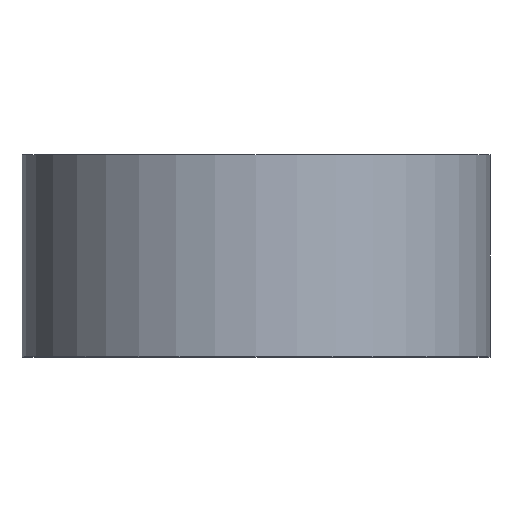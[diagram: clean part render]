
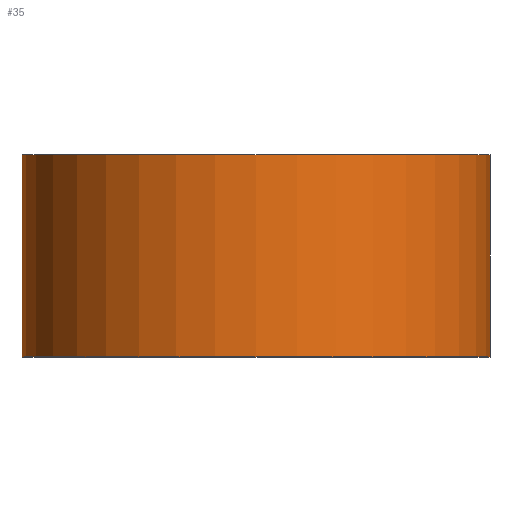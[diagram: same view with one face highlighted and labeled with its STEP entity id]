
A CAD part, top view. The second image highlights one B-rep face of the part: STEP entity #35.
In plain terms, the highlighted cylindrical face has radius 3.3 mm (diameter 6.6 mm), a full revolution.
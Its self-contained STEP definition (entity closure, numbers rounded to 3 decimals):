
#35 = ADVANCED_FACE('',(#36),#49,.T.);
#36 = FACE_BOUND('',#37,.T.);
#37 = EDGE_LOOP('',(#38,#72,#95,#122));
#38 = ORIENTED_EDGE('',*,*,#39,.F.);
#39 = EDGE_CURVE('',#40,#40,#42,.T.);
#40 = VERTEX_POINT('',#41);
#41 = CARTESIAN_POINT('',(3.3,-1.425,0.));
#42 = SURFACE_CURVE('',#43,(#48,#60),.PCURVE_S1.);
#43 = CIRCLE('',#44,3.3);
#44 = AXIS2_PLACEMENT_3D('',#45,#46,#47);
#45 = CARTESIAN_POINT('',(0.,-1.425,0.));
#46 = DIRECTION('',(0.,-1.,0.));
#47 = DIRECTION('',(1.,0.,0.));
#48 = PCURVE('',#49,#54);
#49 = CYLINDRICAL_SURFACE('',#50,3.3);
#50 = AXIS2_PLACEMENT_3D('',#51,#52,#53);
#51 = CARTESIAN_POINT('',(0.,1.425,0.));
#52 = DIRECTION('',(0.,-1.,0.));
#53 = DIRECTION('',(1.,0.,0.));
#54 = DEFINITIONAL_REPRESENTATION('',(#55),#59);
#55 = LINE('',#56,#57);
#56 = CARTESIAN_POINT('',(0.,2.85));
#57 = VECTOR('',#58,1.);
#58 = DIRECTION('',(1.,0.));
#59 = ( GEOMETRIC_REPRESENTATION_CONTEXT(2) 
PARAMETRIC_REPRESENTATION_CONTEXT() REPRESENTATION_CONTEXT('2D SPACE',''
  ) );
#60 = PCURVE('',#61,#66);
#61 = PLANE('',#62);
#62 = AXIS2_PLACEMENT_3D('',#63,#64,#65);
#63 = CARTESIAN_POINT('',(0.,-1.425,0.));
#64 = DIRECTION('',(0.,-1.,0.));
#65 = DIRECTION('',(1.,0.,0.));
#66 = DEFINITIONAL_REPRESENTATION('',(#67),#71);
#67 = CIRCLE('',#68,3.3);
#68 = AXIS2_PLACEMENT_2D('',#69,#70);
#69 = CARTESIAN_POINT('',(0.,0.));
#70 = DIRECTION('',(1.,0.));
#71 = ( GEOMETRIC_REPRESENTATION_CONTEXT(2) 
PARAMETRIC_REPRESENTATION_CONTEXT() REPRESENTATION_CONTEXT('2D SPACE',''
  ) );
#72 = ORIENTED_EDGE('',*,*,#73,.F.);
#73 = EDGE_CURVE('',#74,#40,#76,.T.);
#74 = VERTEX_POINT('',#75);
#75 = CARTESIAN_POINT('',(3.3,1.425,0.));
#76 = SEAM_CURVE('',#77,(#81,#88),.PCURVE_S1.);
#77 = LINE('',#78,#79);
#78 = CARTESIAN_POINT('',(3.3,1.425,0.));
#79 = VECTOR('',#80,1.);
#80 = DIRECTION('',(0.,-1.,0.));
#81 = PCURVE('',#49,#82);
#82 = DEFINITIONAL_REPRESENTATION('',(#83),#87);
#83 = LINE('',#84,#85);
#84 = CARTESIAN_POINT('',(6.283,-0.));
#85 = VECTOR('',#86,1.);
#86 = DIRECTION('',(0.,1.));
#87 = ( GEOMETRIC_REPRESENTATION_CONTEXT(2) 
PARAMETRIC_REPRESENTATION_CONTEXT() REPRESENTATION_CONTEXT('2D SPACE',''
  ) );
#88 = PCURVE('',#49,#89);
#89 = DEFINITIONAL_REPRESENTATION('',(#90),#94);
#90 = LINE('',#91,#92);
#91 = CARTESIAN_POINT('',(0.,-0.));
#92 = VECTOR('',#93,1.);
#93 = DIRECTION('',(0.,1.));
#94 = ( GEOMETRIC_REPRESENTATION_CONTEXT(2) 
PARAMETRIC_REPRESENTATION_CONTEXT() REPRESENTATION_CONTEXT('2D SPACE',''
  ) );
#95 = ORIENTED_EDGE('',*,*,#96,.T.);
#96 = EDGE_CURVE('',#74,#74,#97,.T.);
#97 = SURFACE_CURVE('',#98,(#103,#110),.PCURVE_S1.);
#98 = CIRCLE('',#99,3.3);
#99 = AXIS2_PLACEMENT_3D('',#100,#101,#102);
#100 = CARTESIAN_POINT('',(0.,1.425,0.));
#101 = DIRECTION('',(0.,-1.,0.));
#102 = DIRECTION('',(1.,0.,0.));
#103 = PCURVE('',#49,#104);
#104 = DEFINITIONAL_REPRESENTATION('',(#105),#109);
#105 = LINE('',#106,#107);
#106 = CARTESIAN_POINT('',(0.,0.));
#107 = VECTOR('',#108,1.);
#108 = DIRECTION('',(1.,0.));
#109 = ( GEOMETRIC_REPRESENTATION_CONTEXT(2) 
PARAMETRIC_REPRESENTATION_CONTEXT() REPRESENTATION_CONTEXT('2D SPACE',''
  ) );
#110 = PCURVE('',#111,#116);
#111 = PLANE('',#112);
#112 = AXIS2_PLACEMENT_3D('',#113,#114,#115);
#113 = CARTESIAN_POINT('',(0.,1.425,0.));
#114 = DIRECTION('',(0.,-1.,0.));
#115 = DIRECTION('',(1.,0.,0.));
#116 = DEFINITIONAL_REPRESENTATION('',(#117),#121);
#117 = CIRCLE('',#118,3.3);
#118 = AXIS2_PLACEMENT_2D('',#119,#120);
#119 = CARTESIAN_POINT('',(0.,0.));
#120 = DIRECTION('',(1.,0.));
#121 = ( GEOMETRIC_REPRESENTATION_CONTEXT(2) 
PARAMETRIC_REPRESENTATION_CONTEXT() REPRESENTATION_CONTEXT('2D SPACE',''
  ) );
#122 = ORIENTED_EDGE('',*,*,#73,.T.);
